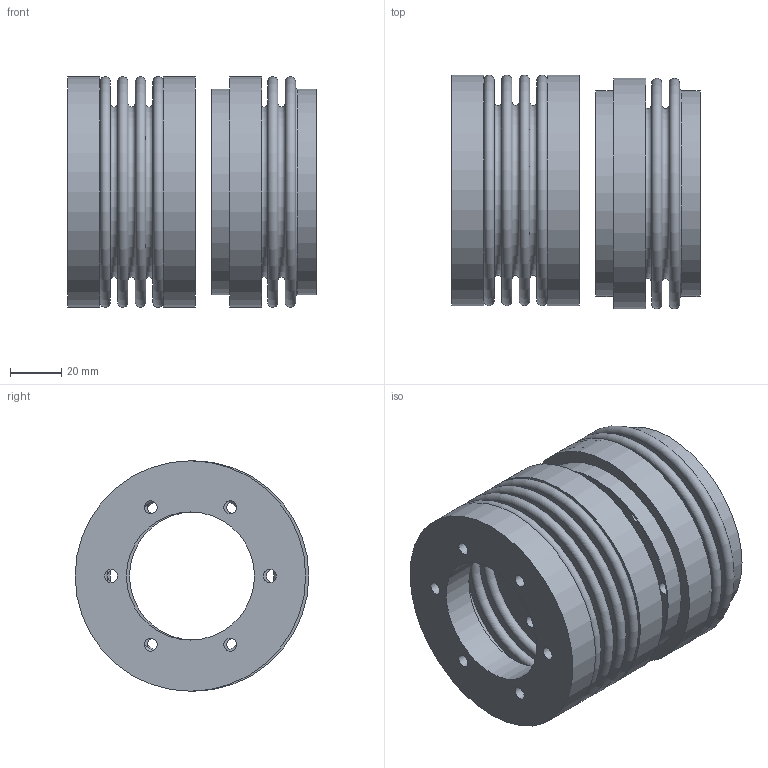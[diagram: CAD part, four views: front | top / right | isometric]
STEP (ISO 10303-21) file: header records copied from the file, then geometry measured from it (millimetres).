
FILE_DESCRIPTION( ( 'Unknown' ), '1' );
FILE_NAME( 'C:/Dokumente und Einstellungen/Sven/Desktop/homepage/cad - homepage/KB7/KB7-200-50.stp', 'Unknown', ( 'Unknown' ), ( 'Unknown' ), 'XStep 1.0', 'Unknown', ' ' );
FILE_SCHEMA( ( 'automotive_design' ) );
Length unit declared in the file: millimetre
Products named in the file (3): Assem1; BK200_Standard; FN200_Standard
Bounding box: 96.91 x 91.23 x 90 mm (x, y, z)
Volume: 193453.8 mm3; surface area: 155416.7 mm2
Topology: 5 solids, 5 shells, 110 faces, 200 edges, 132 vertices
Faces by surface type: plane 42, torus 36, cylinder 32
Full cylindrical faces by diameter (mm): 5 x18, 50 x3, 79.2 x4, 80.4 x4, 90 x3
Entity records: 1474 total; most frequent: DIRECTION 220, CARTESIAN_POINT 166, EDGE_LOOP 112, ORIENTED_EDGE 112, AXIS2_PLACEMENT_3D 110, FACE_OUTER_BOUND 80, EDGE_CURVE 56, VERTEX_POINT 56
